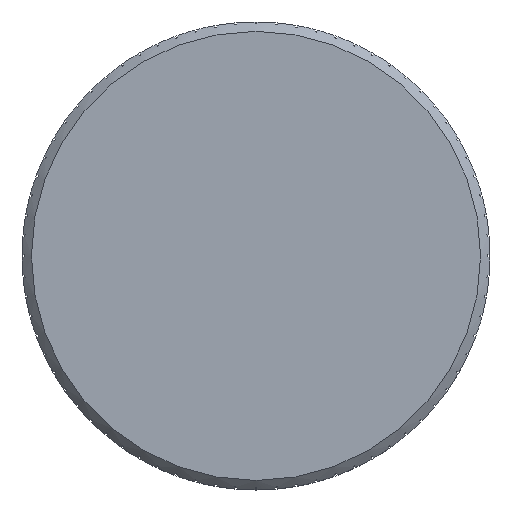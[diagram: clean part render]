
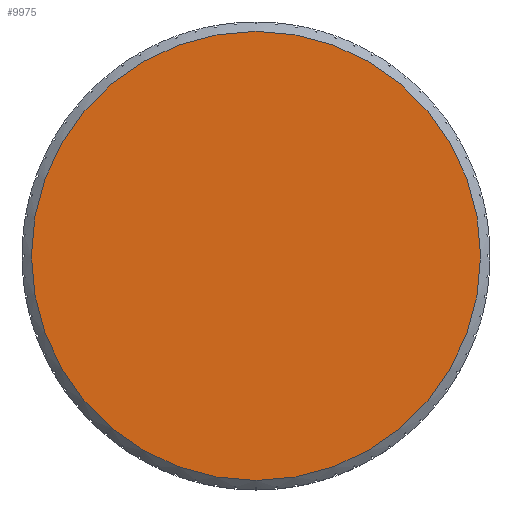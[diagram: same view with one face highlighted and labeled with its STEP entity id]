
A CAD part, top view. The second image highlights one B-rep face of the part: STEP entity #9975.
In plain terms, the highlighted planar face has unit normal (0, 0, 1).
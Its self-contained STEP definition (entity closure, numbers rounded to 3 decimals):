
#161=CARTESIAN_POINT('',(-14.4,0.0,18.));
#162=VERTEX_POINT('',#161);
#163=CARTESIAN_POINT('',(0.0,0.0,18.));
#164=DIRECTION('',(0.0,0.0,1.0));
#165=DIRECTION('',(1.0,0.0,0.0));
#166=AXIS2_PLACEMENT_3D('',#163,#164,#165);
#167=CIRCLE('',#166,14.4);
#168=EDGE_CURVE('',#162,#162,#167,.T.);
#9967=CARTESIAN_POINT('',(0.0,0.0,18.));
#9968=DIRECTION('',(0.0,0.0,1.0));
#9969=DIRECTION('',(1.0,0.0,0.0));
#9970=AXIS2_PLACEMENT_3D('',#9967,#9968,#9969);
#9971=PLANE('',#9970);
#9972=ORIENTED_EDGE('',*,*,#168,.T.);
#9973=EDGE_LOOP('',(#9972));
#9974=FACE_OUTER_BOUND('',#9973,.T.);
#9975=ADVANCED_FACE('',(#9974),#9971,.T.);
